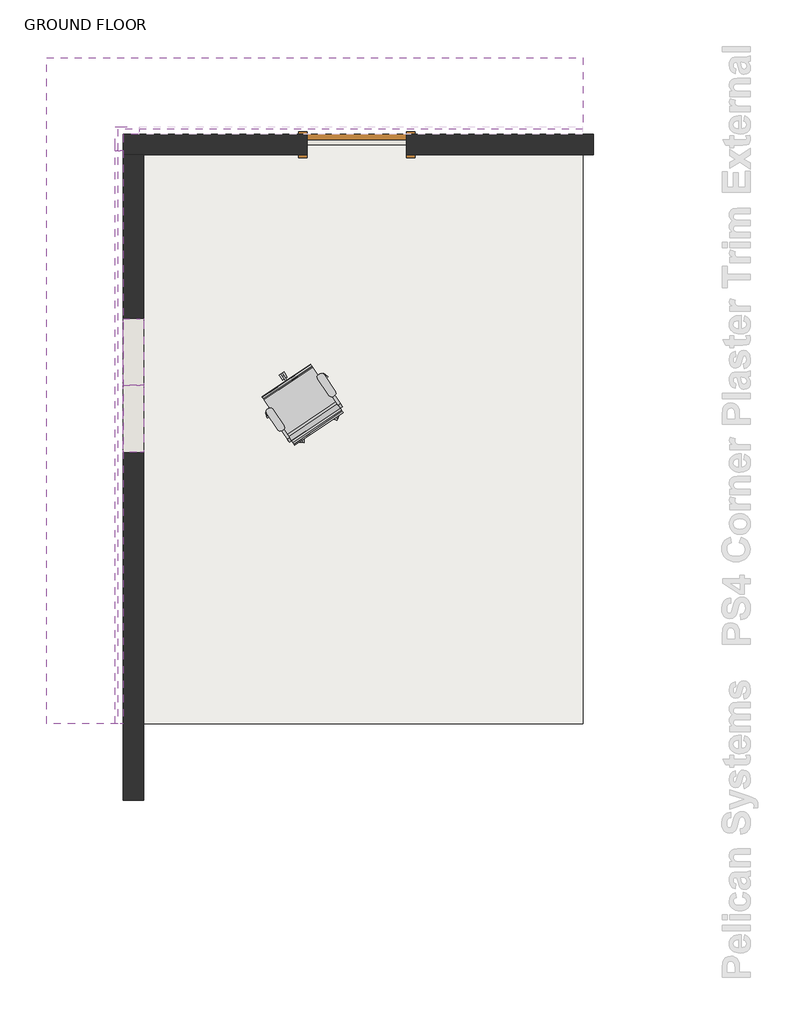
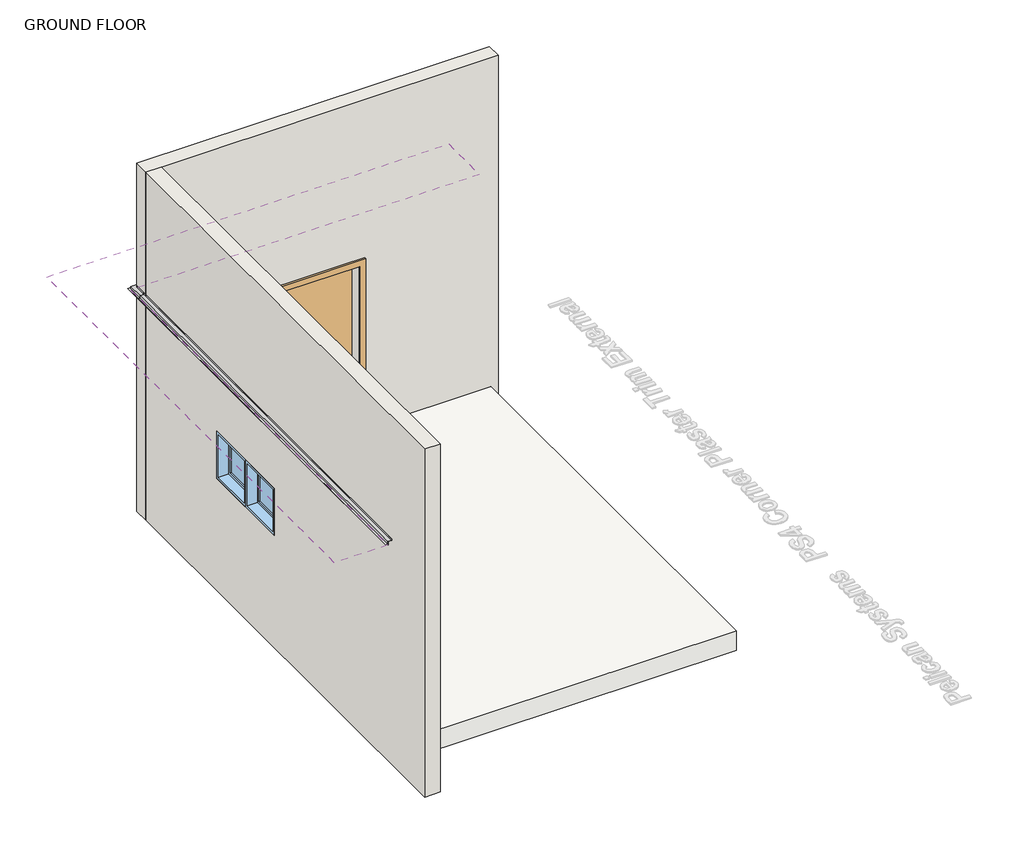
# One storey, part 1 of 2: 2 proxies, 2 walls, 2 windows, 1 covering, 1 door, 1 furniture element, 1 slab.
"""IFC4 building model written with IfcOpenShell, lengths in millimetres."""

from ifc_helpers import new_model, si_unit, frame, origin, place, context, project, spatial, polyline, outline, extrude, faceted_brep, transform, mapped, element, save
from components import ps4_corner_trim_external_485f981e, m_single_flush_0915_x_2134mm_f5238887, chair_task_arms_chair_task_arms_3b363349, m_fixed_0610_x_0610mm_09852ef8

model = new_model("IFC4")

# Units and contexts
model_context = context("Model", 3, world=origin())
ifc_project = project(units=[si_unit("LENGTHUNIT", "METRE", prefix="MILLI")], contexts=[model_context])

# Site, building, storey
site = spatial("IfcSite", under=ifc_project)
building = spatial("IfcBuilding", under=site)
storey = spatial("IfcBuildingStorey", under=building, Name="GROUND FLOOR", Elevation=0.0)

# Proxies
placement = place(None, origin())
ps4_corner_trim_external_shape = ps4_corner_trim_external_485f981e(model_context)
element("IfcBuildingElementProxy", 1, Name="PS4 Corner Trim - External : Trims Pelican Systems Plaster Trim 45 x 20", ObjectType="PS4 Corner Trim - External : Trims Pelican Systems Plaster Trim 45 x 20", at=placement, inside=storey, context=model_context, shape_type="MappedRepresentation", body=[
    mapped(ps4_corner_trim_external_shape, transform((127722.7345529, 65337.9193804, 2620.0), x_axis=(0.0, -1.0, 0.0), y_axis=(1.0, 0.0, 0.0), z_axis=(0.0, 0.0, 1.0))),
])
element("IfcBuildingElementProxy", 2, Name="TR05 : Trims Pelican Systems Plaster Trim 45 x 45", ObjectType="TR05 : Trims Pelican Systems Plaster Trim 45 x 45", at=placement, inside=storey, context=model_context, shape_type="SweptSolid", body=[
    extrude(outline(polyline([(2665.0157067, 127752.7345529), (2665.0157067, 127751.7345529), (2645.0157067, 127751.7345529), (2645.0157067, 127706.7345529), (2612.0, 127706.7345529), (2612.0, 127682.7345529), (2611.0, 127682.7345529), (2611.0, 127706.7345529), (2600.0, 127706.7345529), (2600.0, 127707.7345529), (2644.0157067, 127707.7345529), (2644.0157067, 127752.7345529), (2665.0157067, 127752.7345529)])), frame((0.0, 59912.9193804, 0.0), z_axis=(0.0, 1.0, 0.0), x_axis=(0.0, 0.0, 1.0)), (0.0, 0.0, 1.0), 5245.1948811),
])

# Covering
element("IfcCovering", 3, ObjectType="_C2.3 - 12mm FLUSHPLASTER CEILING (UNDER CONCRETE SOFFIT)", at=placement, inside=storey, context=model_context, shape_type="SweptSolid", body=[
    extrude(outline(polyline([(131966.7345529, 65353.9193804), (127706.7345529, 65353.9193804), (127706.7345529, 59912.9193804), (127052.7345529, 59912.9193804), (127052.7345529, 66007.9193804), (131966.7345529, 66007.9193804), (131966.7345529, 65353.9193804)])), frame((0.0, 0.0, 2600.0), z_axis=(0.0, 0.0, 1.0), x_axis=(1.0, 0.0, 0.0)), (0.0, 0.0, 1.0), 11.0),
])

# Door
m_single_flush_0915_x_2134mm_shape = m_single_flush_0915_x_2134mm_f5238887(model_context)
element("IfcDoor", 4, ObjectType="M_Single-Flush : 0915 x 2134mm", at=placement, inside=storey, context=model_context, shape_type="MappedRepresentation", body=[
    mapped(m_single_flush_0915_x_2134mm_shape, transform((129894.7345529, 65212.9193804, 0.0), x_axis=(1.0, 0.0, 0.0), y_axis=(0.0, 1.0, 0.0), z_axis=(0.0, 0.0, 1.0))),
])

# Furniture
chair_task_arms_chair_task_arms_shape = chair_task_arms_chair_task_arms_3b363349(model_context)
element("IfcFurniture", 5, ObjectType="Chair-Task Arms : Chair-Task Arms", at=placement, inside=storey, context=model_context, shape_type="MappedRepresentation", body=[
    mapped(chair_task_arms_chair_task_arms_shape, transform((129292.677586, 62736.7323612, 0.0), x_axis=(0.8290375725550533, 0.5591929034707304, 0.0), y_axis=(-0.5591929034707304, 0.8290375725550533, 0.0), z_axis=(0.0, 0.0, 1.0))),
])

# Slab
element("IfcSlab", 6, ObjectType="Generic Floor - 250mm", at=placement, inside=storey, context=model_context, shape_type="Brep", body=[
    faceted_brep([(127866.7345529, 65212.9193804, -250.0), (131966.7345529, 65212.9193804, -250.0), (131966.7345529, 65117.9193804, -250.0), (131966.7345529, 59912.9193804, -250.0), (127866.7345529, 59912.9193804, -250.0), (127866.7345529, 65117.9193804, -250.0), (127866.7345529, 65212.9193804, 0.0), (127866.7345529, 65117.9193804, 0.0), (127866.7345529, 59912.9193804, 0.0), (131966.7345529, 59912.9193804, 0.0), (131966.7345529, 65117.9193804, 0.0), (131966.7345529, 65212.9193804, 0.0), (130352.2345529, 65212.9193804, 0.0), (129437.2345529, 65212.9193804, 0.0)], [[[0, 1, 2, 3, 4, 5]], [[6, 7, 8, 9, 10, 11, 12, 13]], [[1, 0, 6, 13, 12, 11]], [[3, 2, 1, 11, 10, 9]], [[4, 3, 9, 8]], [[0, 5, 4, 8, 7, 6]]]),
])

# Walls
element("IfcWall", 7, ObjectType="190mm MAXI BLOCK- plastered", at=placement, inside=storey, context=model_context, shape_type="Brep", body=[
    faceted_brep([(132061.7345529, 65117.9193804, -250.0), (132061.7345529, 65117.9193804, 4250.0), (127942.7345529, 65117.9193804, 4250.0), (127752.7345529, 65117.9193804, 4250.0), (127752.7345529, 65117.9193804, -250.0), (127866.7345529, 65117.9193804, -250.0), (127866.7345529, 65117.9193804, 0.0), (129437.2345529, 65117.9193804, 0.0), (129437.2345529, 65117.9193804, 2134.0), (130352.2345529, 65117.9193804, 2134.0), (130352.2345529, 65117.9193804, 0.0), (131966.7345529, 65117.9193804, 0.0), (131966.7345529, 65117.9193804, -250.0), (132061.7345529, 65307.9193804, -250.0), (127752.7345529, 65307.9193804, -250.0), (127752.7345529, 65307.9193804, 4250.0), (132061.7345529, 65307.9193804, 4250.0), (129437.2345529, 65307.9193804, 0.0), (130352.2345529, 65307.9193804, 0.0), (130352.2345529, 65307.9193804, 2134.0), (129437.2345529, 65307.9193804, 2134.0), (131966.7345529, 65212.9193804, -250.0), (127866.7345529, 65212.9193804, -250.0), (129437.2345529, 65212.9193804, 0.0), (130352.2345529, 65212.9193804, 0.0), (127866.7345529, 65212.9193804, 0.0), (131966.7345529, 65212.9193804, 0.0)], [[[0, 1, 2, 3, 4, 5, 6, 7, 8, 9, 10, 11, 12]], [[13, 14, 15, 16], [17, 18, 19, 20]], [[14, 13, 0, 12, 21, 22, 5, 4]], [[1, 0, 13, 16]], [[3, 2, 1, 16, 15]], [[18, 17, 23, 24]], [[19, 18, 24, 10, 9]], [[20, 19, 9, 8]], [[17, 20, 8, 7, 23]], [[25, 23, 7, 6]], [[24, 26, 11, 10]], [[25, 22, 21, 26, 24, 23]], [[22, 25, 6, 5]], [[26, 21, 12, 11]], [[4, 3, 15, 14]]]),
])
element("IfcWall", 8, ObjectType="190mm MAXI BLOCK- plastered", at=placement, inside=storey, context=model_context, shape_type="SweptSolid", body=[
    extrude(outline(polyline([(65117.9193804, -250.0), (59212.9193804, -250.0), (59212.9193804, 4250.0), (65117.9193804, 4250.0), (65117.9193804, -250.0)]), holes=[polyline([(62397.9193804, 1200.0), (63617.9193804, 1200.0), (63617.9193804, 1810.0), (62397.9193804, 1810.0), (62397.9193804, 1200.0)])]), frame((127752.7345529, 0.0, 0.0), z_axis=(1.0, 0.0, 0.0), x_axis=(0.0, 1.0, 0.0)), (0.0, 0.0, 1.0), 190.0),
])

# Windows
m_fixed_0610_x_0610mm_shape = m_fixed_0610_x_0610mm_09852ef8(model_context)
element("IfcWindow", 9, ObjectType="M_Fixed : 0610 x 0610mm", at=placement, inside=storey, context=model_context, shape_type="MappedRepresentation", body=[
    mapped(m_fixed_0610_x_0610mm_shape, transform((127834.7345529, 63312.9193804, 285.0), x_axis=(0.0, -1.0, 0.0), y_axis=(1.0, 0.0, 0.0), z_axis=(0.0, 0.0, 1.0))),
])
element("IfcWindow", 10, ObjectType="M_Fixed : 0610 x 0610mm", at=placement, inside=storey, context=model_context, shape_type="MappedRepresentation", body=[
    mapped(m_fixed_0610_x_0610mm_shape, transform((127834.7345529, 62702.9193804, 285.0), x_axis=(0.0, -1.0, 0.0), y_axis=(1.0, 0.0, 0.0), z_axis=(0.0, 0.0, 1.0))),
])

save(model, "model.ifc")
